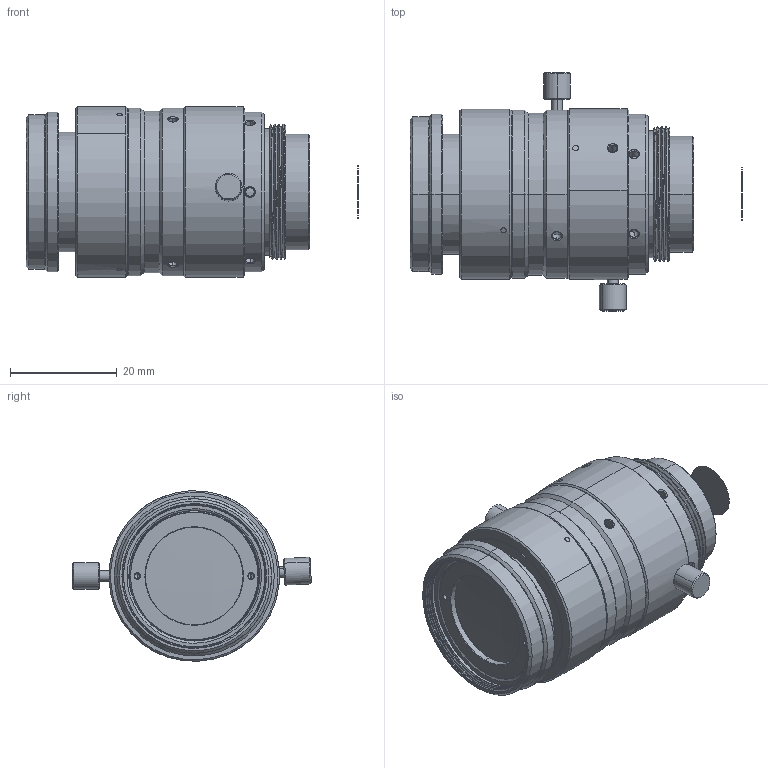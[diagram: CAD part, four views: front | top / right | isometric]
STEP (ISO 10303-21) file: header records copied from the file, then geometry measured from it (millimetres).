
FILE_DESCRIPTION (( 'STEP AP214' ), '1' );
FILE_NAME ('HN-P-1618-10M-C2-3_3D_Modeling.STEP', '2022-08-16T01:33:00', ( 'DH' ), ( '' ), 'SwSTEP 2.0', 'SolidWorks 2016', '' );
FILE_SCHEMA (( 'AUTOMOTIVE_DESIGN' ));
Length unit declared in the file: millimetre
Products named in the file (24): HN-P-1618-10M-C2-3-02_ASM; HN-P-1618-10M-C2-3-303; HN-P-1618-10M-C2-3509; HN-P-1618-10M-C2-3-G11; HN-P-1618-10M-C2-3-508; HN-P-1618-10M-C2-3-G10; HN-P-1618-10M-C2-3-505; HN-P-1618-10M-C2-3-101; HN-P-1618-10M-C2-3-106; HN-P-1618-10M-C2-3-103; HN-P-1618-10M-C2-3_3D_Modeling; HN-P-1618-10M-C2-3-506; HN-P-1618-10M-C2-3-105; HN-P-1618-10M-C2-3-104; HN-P-1618-10M-C2-3-XM; HN-P-1618-10M-C2-3-102; HN-P-1618-10M-C2-3-01_ASM; HN-P-1618-10M-C2-3-503; HN-P-1618-10M-C2-3-501; HN-P-1618-10M-C2-3-701; HN-P-1618-10M-C2-3-01-1_ASM; HN-P-1618-10M-C2-3-301; HN-P-1618-10M-C2-3-G1; HN-P-1618-10M-C2-3-111
Assembly tree (29 placements, depth 4):
  HN-P-1618-10M-C2-3_3D_Modeling
    HN-P-1618-10M-C2-3-02_ASM
      HN-P-1618-10M-C2-3-101
      HN-P-1618-10M-C2-3-G10
      HN-P-1618-10M-C2-3-G11
      HN-P-1618-10M-C2-3-303
    HN-P-1618-10M-C2-3-01_ASM
      HN-P-1618-10M-C2-3-01-1_ASM
        HN-P-1618-10M-C2-3-111
        HN-P-1618-10M-C2-3-G1
        HN-P-1618-10M-C2-3-301
      HN-P-1618-10M-C2-3-701  x3
      HN-P-1618-10M-C2-3-501  x3
      HN-P-1618-10M-C2-3-503  x2
    HN-P-1618-10M-C2-3-102
    HN-P-1618-10M-C2-3-XM
    HN-P-1618-10M-C2-3-104
    HN-P-1618-10M-C2-3-105
    HN-P-1618-10M-C2-3-506
    HN-P-1618-10M-C2-3-103
    HN-P-1618-10M-C2-3-106
    HN-P-1618-10M-C2-3-505  x2
    HN-P-1618-10M-C2-3-508
    HN-P-1618-10M-C2-3509
Bounding box: 62.25 x 44.74 x 31.97 mm (x, y, z)
Volume: 11509.4 mm3; surface area: 29540.8 mm2
Topology: 24 solids, 26 shells, 944 faces, 2435 edges, 1571 vertices
Faces by surface type: cylinder 330, cone 266, bspline 209, plane 139
Entity records: 80668 total; most frequent: CARTESIAN_POINT 60448, ORIENTED_EDGE 4544, DIRECTION 3088, EDGE_CURVE 2275, VERTEX_POINT 1485, AXIS2_PLACEMENT_3D 1190, B_SPLINE_CURVE_WITH_KNOTS 1073, EDGE_LOOP 991
